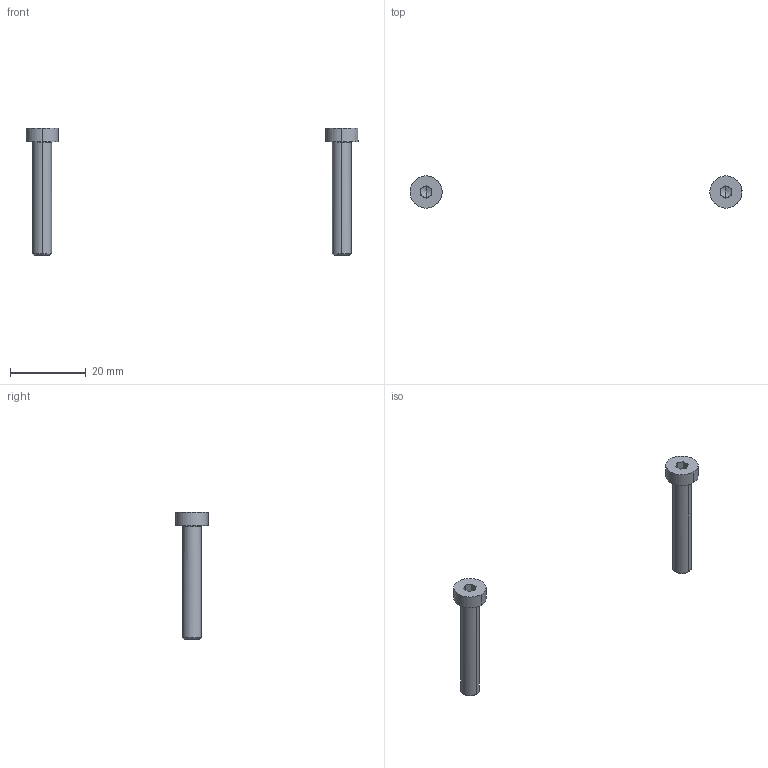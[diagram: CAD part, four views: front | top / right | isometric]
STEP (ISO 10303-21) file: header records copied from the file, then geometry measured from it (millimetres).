
FILE_DESCRIPTION(/* description */ (''),/* implementation_level */ '2;1');
FILE_NAME(/* name */ '7.x-cart#7.5#CBSST5-30',/* time_stamp */ '2014-12-01T20:17:31+01:00',/* author */ (''),/* organization */ (''),/* preprocessor_version */ 'ST-DEVELOPER v14',/* originating_system */ '',/* authorisation */ '');
FILE_SCHEMA (('AUTOMOTIVE_DESIGN'));
Length unit declared in the file: millimetre
Products named in the file (1): Document
Bounding box: 87.48 x 8.5 x 33.5 mm (x, y, z)
Volume: 1532.1 mm3; surface area: 1402.3 mm2
Topology: 2 solids, 2 shells, 50 faces, 118 edges, 72 vertices
Faces by surface type: plane 30, bspline 20
Entity records: 3081 total; most frequent: CARTESIAN_POINT 1547, B_SPLINE_CURVE_WITH_KNOTS 258, ORIENTED_EDGE 228, PCURVE 228, DEFINITIONAL_REPRESENTATION 228, SURFACE_CURVE 114, EDGE_CURVE 114, VERTEX_POINT 72
